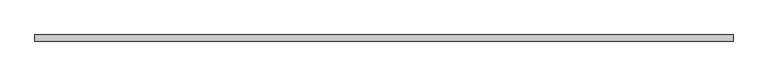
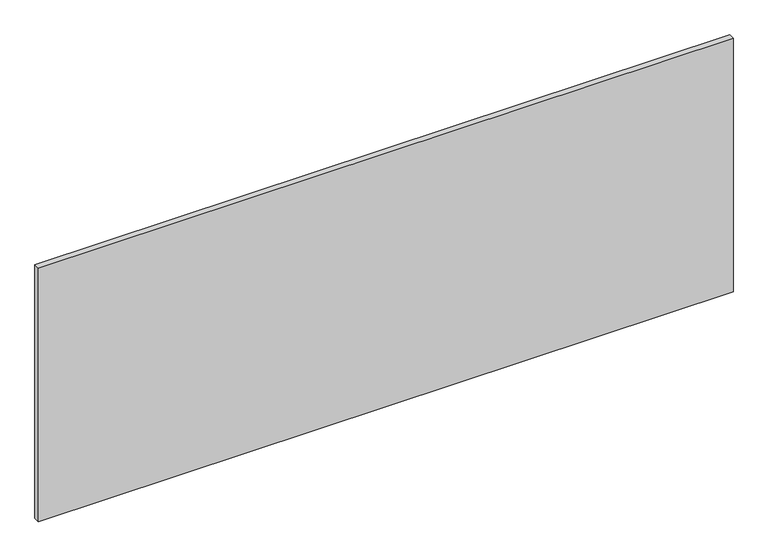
"""IFC4 building model written with IfcOpenShell, lengths in millimetres: furniture geometry, ajuste mueble - esquinas8 : ajuste mueble - esquinas."""

from ifc_helpers import new_model, si_unit, frame, origin, place, context, project, spatial, polyline, outline, extrude, source, transform, mapped, element, save


def furniture_e49e34d4(model_context):
    return source(origin(), model_context, "Body", "SweptSolid", [
        extrude(outline(polyline([(34874.9889682, 31687.6393844), (36743.2862106, 31687.6393844), (36743.2862106, 31671.3005493), (34874.9889682, 31671.3005493), (34874.9889682, 31687.6393844)])), frame((0.0, 0.0, 9150.0), z_axis=(0.0, 0.0, 1.0), x_axis=(1.0, 0.0, 0.0)), (0.0, 0.0, 1.0), 720.0),
    ])


if __name__ == "__main__":
    model = new_model("IFC4")
    model_context = context("Model", 3, world=origin())
    ifc_project = project(units=[si_unit("LENGTHUNIT", "METRE", prefix="MILLI")], contexts=[model_context])
    site = spatial("IfcSite", under=ifc_project)
    building = spatial("IfcBuilding", under=site)
    placement = place(None, origin())
    furniture_shape = furniture_e49e34d4(model_context)
    element("IfcFurniture", 1, ObjectType="ajuste mueble - esquinas8 : ajuste mueble - esquinas", at=placement, inside=building, context=model_context, shape_type="MappedRepresentation", body=[
        mapped(furniture_shape, transform((0.0, 0.0, 0.0), x_axis=(1.0, 0.0, 0.0), y_axis=(0.0, 1.0, 0.0), z_axis=(0.0, 0.0, 1.0))),
    ])
    save(model, "model.ifc")
